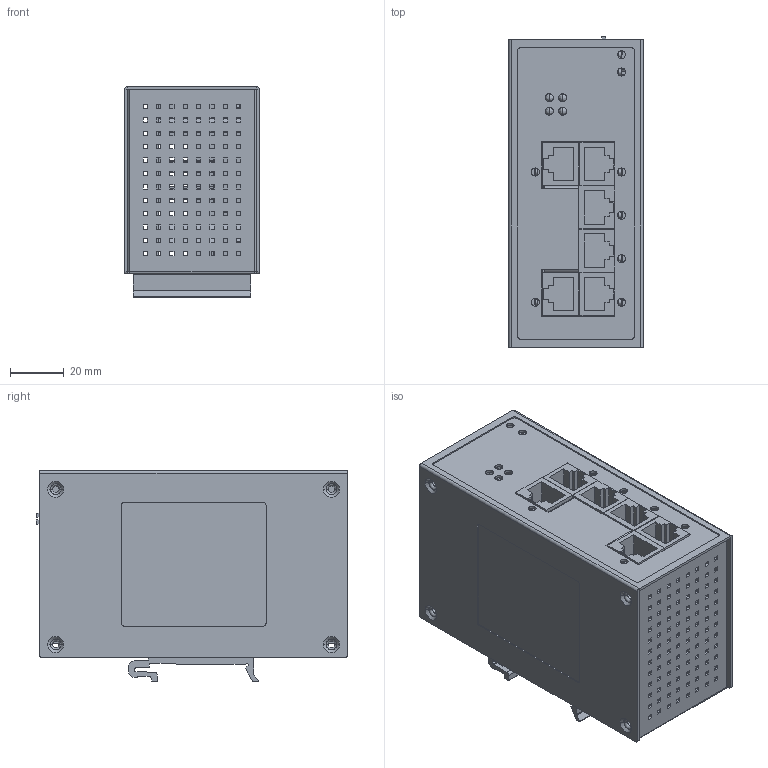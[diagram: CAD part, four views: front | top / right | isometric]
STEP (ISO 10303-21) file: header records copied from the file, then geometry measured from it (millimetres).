
FILE_DESCRIPTION((''),'2;1');
FILE_NAME('EDS-P206A','2010-08-17T',('David_Sung'),(''),'PRO/ENGINEER BY PARAMETRIC TECHNOLOGY CORPORATION, 2006020','PRO/ENGINEER BY PARAMETRIC TECHNOLOGY CORPORATION, 2006020','');
FILE_SCHEMA(('CONFIG_CONTROL_DESIGN'));
Products named in the file (1): EDS-P206A
Bounding box: 50.3 x 116.2 x 78.8 mm (x, y, z)
Surface area: 141475.9 mm2 (no closed solid volume)
Topology: 0 solids, 50 shells, 2597 faces, 6656 edges, 4302 vertices
Faces by surface type: plane 2015, cylinder 464, torus 64, cone 46, bspline 8
Entity records: 78929 total; most frequent: CARTESIAN_POINT 13851, ORIENTED_EDGE 13304, DIRECTION 13160, EDGE_CURVE 6656, VECTOR 5310, LINE 5310, VERTEX_POINT 4302, AXIS2_PLACEMENT_3D 3925
